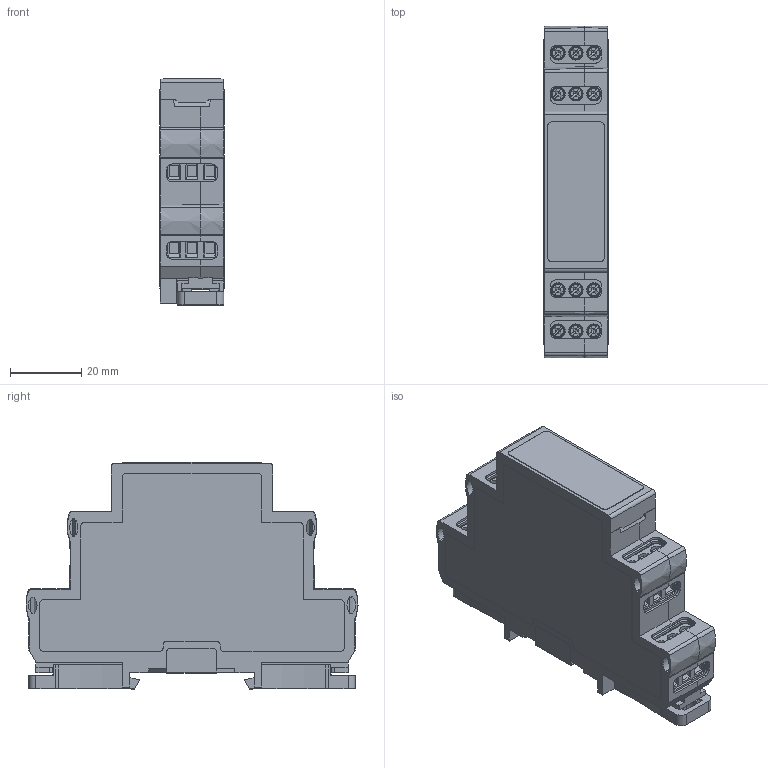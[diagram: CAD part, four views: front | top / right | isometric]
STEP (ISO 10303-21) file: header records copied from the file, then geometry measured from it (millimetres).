
FILE_DESCRIPTION(/* description */ (''),/* implementation_level */ '2;1');
FILE_NAME(/* name */ 'D:\WorkIMT\Project IMT\Флокс-RS\v1\FLOX-RS 3D.stp',/* time_stamp */ '2024-02-20T11:01:46+03:00',/* author */ ('Admin'),/* organization */ (''),/* preprocessor_version */ 'ST-DEVELOPER v17.2',/* originating_system */ 'Autodesk Inventor 2019',/* authorisation */ '');
FILE_SCHEMA (('AUTOMOTIVE_DESIGN { 1 0 10303 214 3 1 1 }'));
Products named in the file (1): FLOX-RS 3D
Bounding box: 18.15 x 92.99 x 63.7 mm (x, y, z)
Volume: 26614.9 mm3; surface area: 35625.2 mm2
Topology: 1 solids, 3 shells, 2588 faces, 7261 edges, 4650 vertices
Faces by surface type: plane 2124, cylinder 352, cone 60, torus 36, bspline 8, sphere 8
Full cylindrical faces by diameter (mm): 0.457 x4, 1.3 x12, 4 x12
Entity records: 84268 total; most frequent: CARTESIAN_POINT 15528, ORIENTED_EDGE 14518, DIRECTION 13389, EDGE_CURVE 7259, LINE 6187, VECTOR 6187, VERTEX_POINT 4650, AXIS2_PLACEMENT_3D 3601
